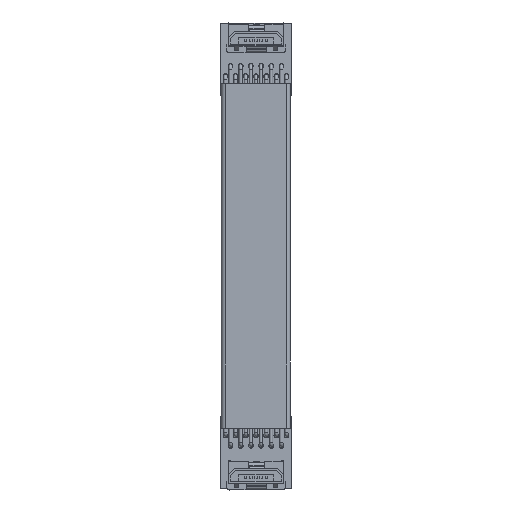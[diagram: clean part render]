
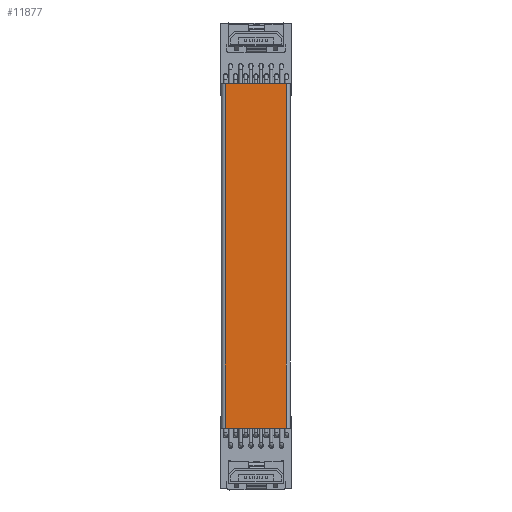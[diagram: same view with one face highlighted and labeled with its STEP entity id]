
A CAD part, top view. The second image highlights one B-rep face of the part: STEP entity #11877.
In plain terms, the highlighted planar face has unit normal (0, 0, 1) as drawn and (0, 1, 0) by its records, which use the part's own axes.
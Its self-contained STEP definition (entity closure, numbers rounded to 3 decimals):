
#11401 = VERTEX_POINT('',#11402);
#11402 = CARTESIAN_POINT('',(-0.001,-0.201,43.));
#11409 = EDGE_CURVE('',#11401,#11410,#11412,.T.);
#11410 = VERTEX_POINT('',#11411);
#11411 = CARTESIAN_POINT('',(-7.621,-0.201,43.));
#11412 = LINE('',#11413,#11414);
#11413 = CARTESIAN_POINT('',(-7.621,-0.201,43.));
#11414 = VECTOR('',#11415,1.);
#11415 = DIRECTION('',(-1.,0.,0.));
#11578 = VERTEX_POINT('',#11579);
#11579 = CARTESIAN_POINT('',(-0.001,-0.201,
    0.));
#11595 = VERTEX_POINT('',#11596);
#11596 = CARTESIAN_POINT('',(-7.621,-0.201,0.));
#11603 = EDGE_CURVE('',#11578,#11595,#11604,.T.);
#11604 = LINE('',#11605,#11606);
#11605 = CARTESIAN_POINT('',(-7.621,-0.201,0.));
#11606 = VECTOR('',#11607,1.);
#11607 = DIRECTION('',(-1.,0.,0.));
#11833 = EDGE_CURVE('',#11578,#11401,#11834,.T.);
#11834 = LINE('',#11835,#11836);
#11835 = CARTESIAN_POINT('',(-0.001,-0.201,
    0.));
#11836 = VECTOR('',#11837,1.);
#11837 = DIRECTION('',(0.,0.,1.));
#11865 = EDGE_CURVE('',#11595,#11410,#11866,.T.);
#11866 = LINE('',#11867,#11868);
#11867 = CARTESIAN_POINT('',(-7.621,-0.201,0.));
#11868 = VECTOR('',#11869,1.);
#11869 = DIRECTION('',(0.,0.,1.));
#11877 = ADVANCED_FACE('',(#11878),#11884,.T.);
#11878 = FACE_BOUND('',#11879,.T.);
#11879 = EDGE_LOOP('',(#11880,#11881,#11882,#11883));
#11880 = ORIENTED_EDGE('',*,*,#11409,.F.);
#11881 = ORIENTED_EDGE('',*,*,#11833,.F.);
#11882 = ORIENTED_EDGE('',*,*,#11603,.T.);
#11883 = ORIENTED_EDGE('',*,*,#11865,.T.);
#11884 = PLANE('',#11885);
#11885 = AXIS2_PLACEMENT_3D('',#11886,#11887,#11888);
#11886 = CARTESIAN_POINT('',(-7.621,-0.201,0.));
#11887 = DIRECTION('',(0.,1.,0.));
#11888 = DIRECTION('',(0.,0.,1.));
